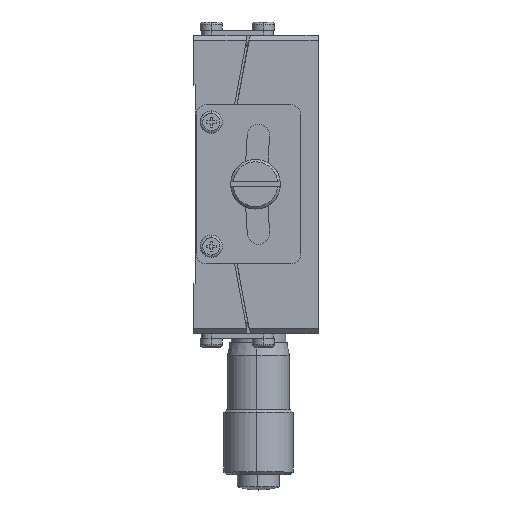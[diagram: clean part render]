
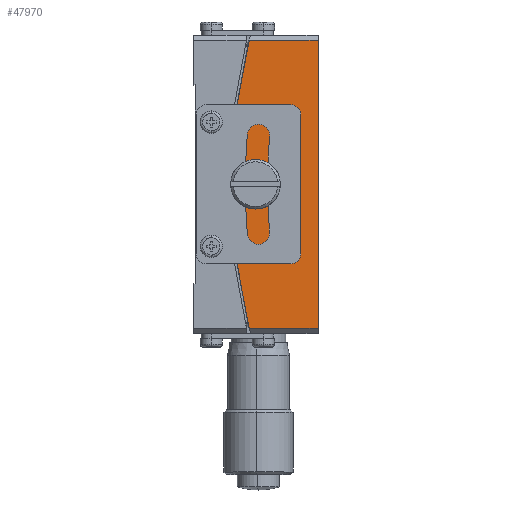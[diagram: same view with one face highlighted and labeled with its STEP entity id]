
A CAD part, top view. The second image highlights one B-rep face of the part: STEP entity #47970.
In plain terms, the highlighted planar face has unit normal (0, 0, 1).
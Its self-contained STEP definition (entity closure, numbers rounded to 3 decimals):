
#953 = AXIS2_PLACEMENT_3D ( 'NONE', #36057, #79848, #42347 ) ;
#1842 = VECTOR ( 'NONE', #22919, 1000. ) ;
#2037 = CARTESIAN_POINT ( 'NONE',  ( -19.174, 36.445, 30. ) ) ;
#2127 = CARTESIAN_POINT ( 'NONE',  ( -19.174, 34.145, 30. ) ) ;
#5298 = DIRECTION ( 'NONE',  ( 0., 0., -1. ) ) ;
#5367 = EDGE_CURVE ( 'NONE', #44829, #48727, #68454, .T. ) ;
#8251 = DIRECTION ( 'NONE',  ( 0., -1., 0. ) ) ;
#9998 = EDGE_CURVE ( 'NONE', #44829, #55607, #77804, .T. ) ;
#11898 = ORIENTED_EDGE ( 'NONE', *, *, #45790, .T. ) ;
#12441 = VERTEX_POINT ( 'NONE', #13346 ) ;
#13346 = CARTESIAN_POINT ( 'NONE',  ( -20.439, 7.445, 30. ) ) ;
#14159 = ORIENTED_EDGE ( 'NONE', *, *, #9998, .T. ) ;
#15170 = EDGE_CURVE ( 'NONE', #54271, #72864, #78559, .T. ) ;
#17799 = LINE ( 'NONE', #59956, #65758 ) ;
#21703 = EDGE_CURVE ( 'NONE', #55607, #12441, #58813, .T. ) ;
#22446 = DIRECTION ( 'NONE',  ( 1., 0., 0. ) ) ;
#22545 = CARTESIAN_POINT ( 'NONE',  ( 93.426, 36.445, 30. ) ) ;
#22919 = DIRECTION ( 'NONE',  ( 0., -1., 0. ) ) ;
#22931 = AXIS2_PLACEMENT_3D ( 'NONE', #22545, #66337, #28885 ) ;
#24122 = EDGE_LOOP ( 'NONE', ( #24593, #33451 ) ) ;
#24593 = ORIENTED_EDGE ( 'NONE', *, *, #33089, .T. ) ;
#28885 = DIRECTION ( 'NONE',  ( 1., 0., 0. ) ) ;
#29098 = ORIENTED_EDGE ( 'NONE', *, *, #5367, .F. ) ;
#32936 = CARTESIAN_POINT ( 'NONE',  ( -20.439, 65.445, 30. ) ) ;
#33089 = EDGE_CURVE ( 'NONE', #72864, #54271, #34629, .T. ) ;
#33451 = ORIENTED_EDGE ( 'NONE', *, *, #15170, .T. ) ;
#33848 = CARTESIAN_POINT ( 'NONE',  ( -19.174, 38.745, 30. ) ) ;
#34629 = CIRCLE ( 'NONE', #61818, 2.3 ) ;
#36057 = CARTESIAN_POINT ( 'NONE',  ( -24.179, 65.445, 30. ) ) ;
#37588 = DIRECTION ( 'NONE',  ( -1., 0., 0. ) ) ;
#41379 = ORIENTED_EDGE ( 'NONE', *, *, #21703, .T. ) ;
#42347 = DIRECTION ( 'NONE',  ( 0., -1., 0. ) ) ;
#42826 = CARTESIAN_POINT ( 'NONE',  ( -19.174, 36.445, 30. ) ) ;
#44829 = VERTEX_POINT ( 'NONE', #66985 ) ;
#45790 = EDGE_CURVE ( 'NONE', #12441, #48727, #17799, .T. ) ;
#45804 = DIRECTION ( 'NONE',  ( 0., 0., -1. ) ) ;
#47970 = ADVANCED_FACE ( 'NONE', ( #64003, #78696 ), #67012, .T. ) ;
#48727 = VERTEX_POINT ( 'NONE', #81083 ) ;
#49077 = DIRECTION ( 'NONE',  ( 0., -1., 0. ) ) ;
#54271 = VERTEX_POINT ( 'NONE', #33848 ) ;
#55607 = VERTEX_POINT ( 'NONE', #32936 ) ;
#56201 = CARTESIAN_POINT ( 'NONE',  ( -15.376, 65.445, 30. ) ) ;
#58813 = CIRCLE ( 'NONE', #22931, 117.5 ) ;
#59956 = CARTESIAN_POINT ( 'NONE',  ( -15.376, 7.445, 30. ) ) ;
#60428 = CARTESIAN_POINT ( 'NONE',  ( -6.574, 36.445, 30. ) ) ;
#61818 = AXIS2_PLACEMENT_3D ( 'NONE', #2037, #45804, #8251 ) ;
#64003 = FACE_BOUND ( 'NONE', #24122, .T. ) ;
#65758 = VECTOR ( 'NONE', #22446, 1000. ) ;
#66100 = EDGE_LOOP ( 'NONE', ( #14159, #41379, #11898, #29098 ) ) ;
#66337 = DIRECTION ( 'NONE',  ( 0., 0., 1. ) ) ;
#66985 = CARTESIAN_POINT ( 'NONE',  ( -6.574, 65.445, 30. ) ) ;
#67012 = PLANE ( 'NONE',  #953 ) ;
#68454 = LINE ( 'NONE', #60428, #1842 ) ;
#69377 = AXIS2_PLACEMENT_3D ( 'NONE', #42826, #5298, #49077 ) ;
#72864 = VERTEX_POINT ( 'NONE', #2127 ) ;
#75821 = VECTOR ( 'NONE', #37588, 1000. ) ;
#77804 = LINE ( 'NONE', #56201, #75821 ) ;
#78559 = CIRCLE ( 'NONE', #69377, 2.3 ) ;
#78696 = FACE_OUTER_BOUND ( 'NONE', #66100, .T. ) ;
#79848 = DIRECTION ( 'NONE',  ( 0., 0., 1. ) ) ;
#81083 = CARTESIAN_POINT ( 'NONE',  ( -6.574, 7.445, 30. ) ) ;
